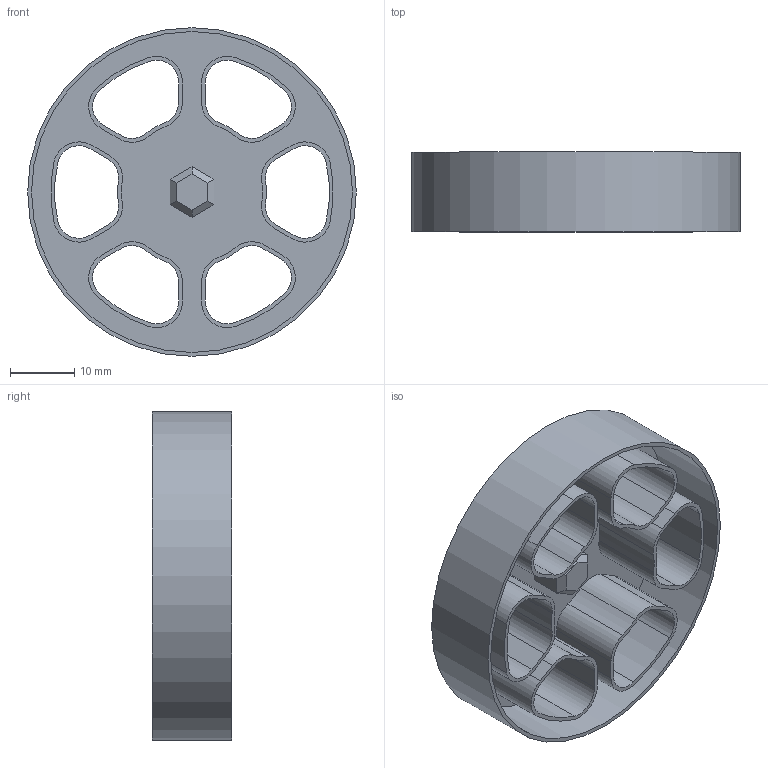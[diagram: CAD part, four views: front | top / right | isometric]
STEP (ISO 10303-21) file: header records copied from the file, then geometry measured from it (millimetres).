
FILE_DESCRIPTION(/* description */ ('STEP AP242 Edition 2','CAx-IF Rec.Pracs.---Representation and Presentation of Product Manufacturing Information (PMI)---4.0---2014-10-13','CAx-IF Rec.Pracs.---3D Tessellated Geometry---0.4---2014-09-14','2;1','CAx-IF Rec.Pracs.---User Defined Attributes---1.5---2016-08-15'),/* implementation_level */ '2;1');
FILE_NAME(/* name */ '93ec63d7-9981-4102-adc1-bfd59af3d4a3',/* time_stamp */ '2026-09-21T11:10:01Z',/* author */ (''),/* organization */ (''),/* preprocessor_version */ 'ST-DEVELOPER v20',/* originating_system */ 'ONSHAPE BY PTC INC, 1.221',/* authorisation */ ' ');
FILE_SCHEMA (('AP242_MANAGED_MODEL_BASED_3D_ENGINEERING_MIM_LF { 1 0 10303 442 3 1 4 }'));
Length unit declared in the file: metre
Products named in the file (1): 50胶轮一次性模具
Bounding box: 51.2 x 12.4 x 51.2 mm (x, y, z)
Volume: 3718.9 mm3; surface area: 12820.1 mm2
Topology: 1 solids, 1 shells, 120 faces, 324 edges, 214 vertices
Faces by surface type: cylinder 74, plane 46
Full cylindrical faces by diameter (mm): 50 x1, 51.2 x1
Entity records: 3864 total; most frequent: DIRECTION 712, CARTESIAN_POINT 657, ORIENTED_EDGE 644, EDGE_CURVE 322, AXIS2_PLACEMENT_3D 269, VERTEX_POINT 214, LINE 174, VECTOR 174
